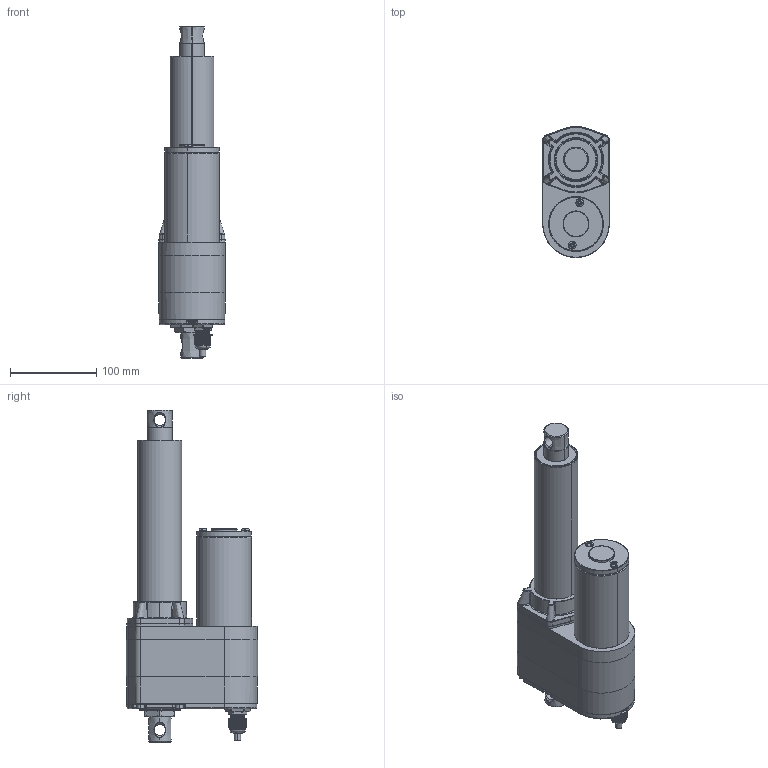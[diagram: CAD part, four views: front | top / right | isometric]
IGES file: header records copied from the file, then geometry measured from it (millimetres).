
Start section: SolidWorks IGES file using analytic representation for surfaces
Global section: file name: C:\Users\lynn\Desktop\工作用資料夾\3D CAD Models Community\ID10(over)\新增IP69\ID10\3D\ID10-A-102-LT-IP69K\ID10-A-102-LT-IP69K.IGS; native system: SolidWorks 2020; preprocessor: SolidWorks 2020; author: lynn; date: 221004.172807; units: millimetre
Bounding box: 77.3 x 151.8 x 384.5 mm (x, y, z)
Surface area: 177770.1 mm2 (no closed solid volume)
Topology: 0 solids, 0 shells, 2286 faces, 21648 edges, 21600 vertices
Faces by surface type: bspline 1466, revolution 820
